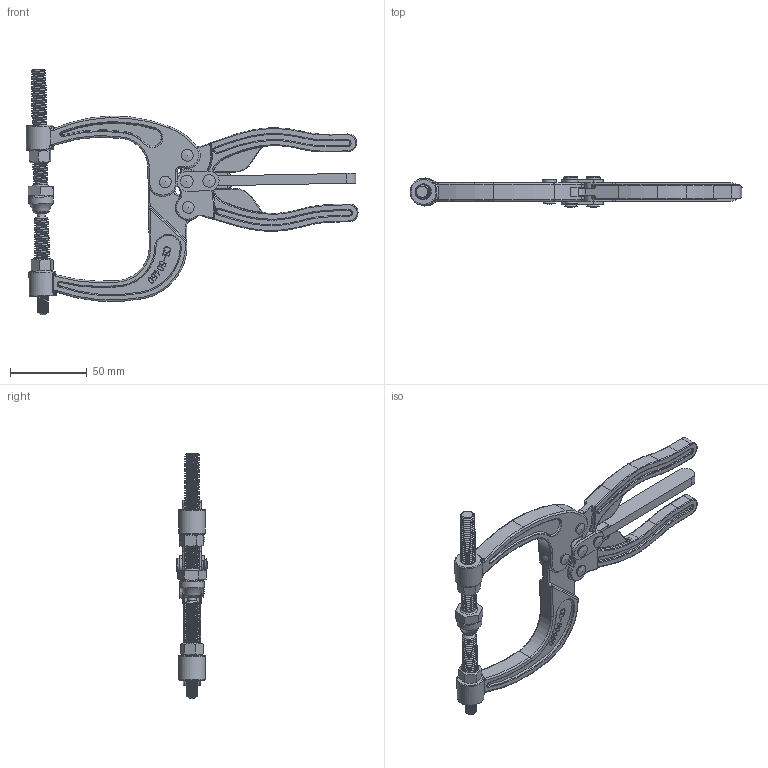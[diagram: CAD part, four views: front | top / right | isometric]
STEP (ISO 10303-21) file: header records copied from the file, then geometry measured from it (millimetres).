
FILE_DESCRIPTION(/* description */ ('STEP AP203'),/* implementation_level */ '2;1');
FILE_NAME(/* name */ 'D:\Vault_2016\Projekty\Clamptek\STRONA\Toggle plier\CH-50450\CH-50450.stp',/* time_stamp */ '2019-01-15T16:44:59+01:00',/* author */ ('Łukasz'),/* organization */ ('Î¢ÈíÖÐ¹ú'),/* preprocessor_version */ 'ST-DEVELOPER v17.2',/* originating_system */ 'Autodesk Inventor 2019',/* authorisation */ '');
FILE_SCHEMA (('AUTOMOTIVE_DESIGN { 1 0 10303 214 3 1 1 }'));
Products named in the file (13): CH-50450; CH-50450-01 LEFT BAR_Ä¬ÈÏ; 5_Ä¬ÈÏ; 3-8-16 NUT_Ä¬ÈÏ; LEFT HANDLE_Ä¬ÈÏ; RIGHT BAR_Ä¬ÈÏ; 3_Ä¬ÈÏ; 1_Ä¬ÈÏ_°´¼Ó¹¤_; 2_Ä¬ÈÏ; CH-50450-02 RIGHT BAR_Ä¬ÈÏ; 6_Ä¬ÈÏ; 4_Ä¬ÈÏ; 38300_Ä¬ÈÏ
Assembly tree (17 placements, depth 2):
  CH-50450
    CH-50450-01 LEFT BAR_Ä¬ÈÏ
    4_Ä¬ÈÏ  x3
    5_Ä¬ÈÏ
    3_Ä¬ÈÏ  x2
    3-8-16 NUT_Ä¬ÈÏ  x2
    LEFT HANDLE_Ä¬ÈÏ
    RIGHT BAR_Ä¬ÈÏ
    2_Ä¬ÈÏ  x2
    1_Ä¬ÈÏ_°´¼Ó¹¤_
    CH-50450-02 RIGHT BAR_Ä¬ÈÏ
    6_Ä¬ÈÏ
    38300_Ä¬ÈÏ
Bounding box: 215.68 x 20 x 159.54 mm (x, y, z)
Volume: 96675.5 mm3; surface area: 54493.2 mm2
Topology: 20 solids, 20 shells, 1316 faces, 3501 edges, 2200 vertices
Faces by surface type: cylinder 383, plane 361, bspline 277, torus 139, cone 82, sphere 74
Full cylindrical faces by diameter (mm): 6.4 x21, 7.8 x1, 8 x16, 8.5 x8, 9 x5, 9.5 x76, 16 x1, 16.8 x2, 17.5 x2
Entity records: 80485 total; most frequent: CARTESIAN_POINT 50192, ORIENTED_EDGE 6630, DIRECTION 5884, EDGE_CURVE 3315, AXIS2_PLACEMENT_3D 2253, VERTEX_POINT 2104, LINE 1378, VECTOR 1378
